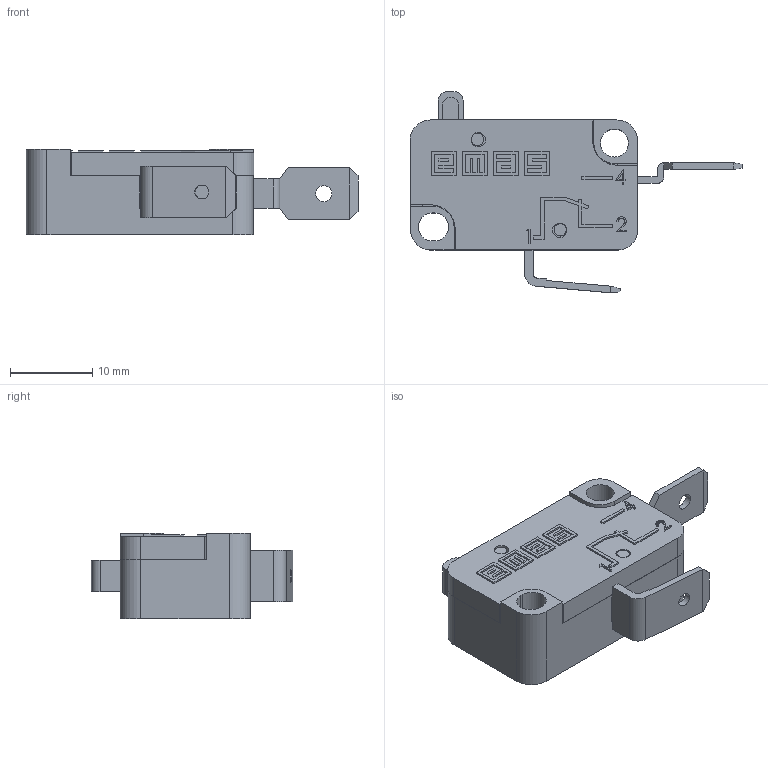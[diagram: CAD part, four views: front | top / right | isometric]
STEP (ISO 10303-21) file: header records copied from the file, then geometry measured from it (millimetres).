
FILE_DESCRIPTION((''),'2; 1');
FILE_NAME('','2026-03-27T16:22:15',(''),(''),'CST STEP Exporter V1.0','Unknown','');
FILE_SCHEMA(('CONFIG_CONTROL_DESIGN'));
Length unit declared in the file: metre
Assembly tree (7 placements, depth 2):
  (unnamed)
    (unnamed)
    (unnamed)
    (unnamed)
    (unnamed)
    (unnamed)
    (unnamed)
    (unnamed)
Bounding box: 40.35 x 24.49 x 10.4 mm (x, y, z)
Surface area: 6397.4 mm2 (no closed solid volume)
Topology: 0 solids, 7 shells, 268 faces, 983 edges, 736 vertices
Faces by surface type: plane 231, cylinder 31, extrusion 6
Full cylindrical faces by diameter (mm): 1.5 x2, 1.7 x1, 1.75 x2, 1.95 x1, 3.4 x1
Entity records: 12753 total; most frequent: CARTESIAN_POINT 2165, ORIENTED_EDGE 1624, DIRECTION 1621, EDGE_CURVE 974, VECTOR 829, LINE 823, VERTEX_POINT 734, AXIS2_PLACEMENT_3D 396
